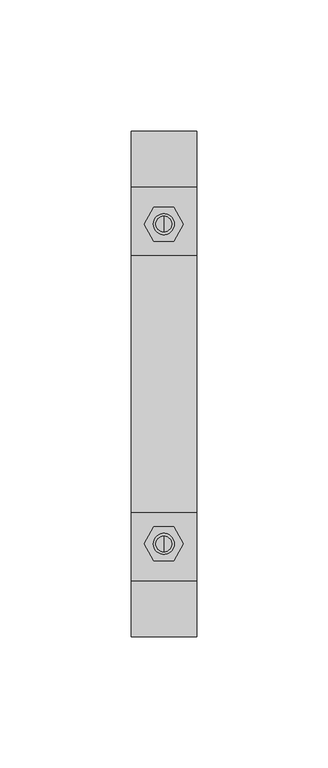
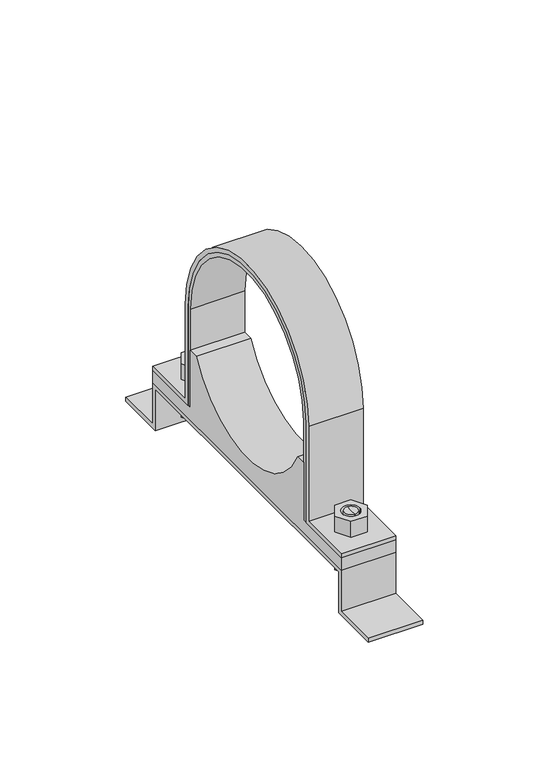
"""IFC4 building model written with IfcOpenShell, lengths in millimetres: valve geometry, Superfix DG3 Clamp : Superfix DG3 Clamp."""

from ifc_helpers import new_model, si_unit, point, frame, frame_2d, origin, place, context, project, spatial, polyline, circle_curve, trimmed, segment, composite_curve, outline, extrude, source, transform, mapped, element, save
from ifc_brep_helpers import plane_surface, cylinder_surface, advanced_brep


def valve_0220e836(model_context):
    return source(origin(), model_context, "Body", "SolidModel", [
        advanced_brep(
        [(0.0, 64.0, 7.0), (0.0, 58.0, 7.0), (0.0, 58.0, 20.0), (0.0, 64.0, 20.0), (0.0, 61.0, 7.0)],
        [
            (0, 1, circle_curve(frame((0.0, 61.0, 7.0), z_axis=(0.0, 0.0, 1.0), x_axis=(0.0, 1.0, 0.0)), 3.0)),
            (1, 2),
            (2, 3, circle_curve(frame((0.0, 61.0, 20.0), z_axis=(0.0, 0.0, -1.0), x_axis=(0.0, 1.0, 0.0)), 3.0)),
            (3, 0),
            (1, 0, circle_curve(frame((0.0, 61.0, 7.0), z_axis=(0.0, 0.0, 1.0), x_axis=(0.0, 1.0, 0.0)), 3.0)),
            (3, 2, circle_curve(frame((0.0, 61.0, 20.0), z_axis=(0.0, 0.0, -1.0), x_axis=(0.0, 1.0, 0.0)), 3.0)),
            (0, 4),
            (4, 1),
        ],
        [
            cylinder_surface(frame((0.0, 61.0, 74.2806094), z_axis=(0.0, 0.0, 1.0), x_axis=(0.0, 1.0, 0.0)), 3.0),
            plane_surface(frame((0.0, 61.0, 7.0), z_axis=(0.0, 0.0, -1.0), x_axis=(0.0, 1.0, 0.0))),
            plane_surface(frame((13.75, -75.0, 20.0), z_axis=(0.0, 0.0, 1.0), x_axis=(-1.0, 0.0, 0.0))),
        ],
        [
            (0, [[1, 2, 3, 4]]),
            (0, [[5, -4, 6, -2]]),
            (1, [[-1, 7, 8]]),
            (1, [[-5, -8, -7]]),
            (2, [[-3, -6]]),
        ],
    ),
        advanced_brep(
        [(0.0, 58.0, 38.0), (0.0, 64.0, 38.0), (0.0, 64.0, 28.0), (0.0, 58.0, 28.0), (0.0, 61.0, 38.0)],
        [
            (0, 1, circle_curve(frame((0.0, 61.0, 38.0), z_axis=(0.0, 0.0, -1.0), x_axis=(0.0, 1.0, 0.0)), 3.0)),
            (1, 2),
            (2, 3, circle_curve(frame((0.0, 61.0, 28.0), z_axis=(0.0, 0.0, 1.0), x_axis=(0.0, 1.0, 0.0)), 3.0)),
            (3, 0),
            (1, 0, circle_curve(frame((0.0, 61.0, 38.0), z_axis=(0.0, 0.0, -1.0), x_axis=(0.0, 1.0, 0.0)), 3.0)),
            (3, 2, circle_curve(frame((0.0, 61.0, 28.0), z_axis=(0.0, 0.0, 1.0), x_axis=(0.0, 1.0, 0.0)), 3.0)),
            (0, 4),
            (4, 1),
        ],
        [
            cylinder_surface(frame((0.0, 61.0, 74.2806094), z_axis=(0.0, 0.0, 1.0), x_axis=(0.0, 1.0, 0.0)), 3.0),
            plane_surface(frame((0.0, 61.0, 38.0), z_axis=(0.0, 0.0, 1.0), x_axis=(0.0, 1.0, 0.0))),
            plane_surface(frame((13.75, 75.0, 28.0), z_axis=(0.0, 0.0, -1.0), x_axis=(-1.0, 0.0, 0.0))),
        ],
        [
            (0, [[1, 2, 3, 4]]),
            (0, [[5, -4, 6, -2]]),
            (1, [[-1, 7, 8]]),
            (1, [[-5, -8, -7]]),
            (2, [[-3, -6]]),
        ],
    ),
        advanced_brep(
        [(0.0, -64.0, 38.0), (0.0, -58.0, 38.0), (0.0, -58.0, 28.0), (0.0, -64.0, 28.0), (0.0, -61.0, 38.0)],
        [
            (0, 1, circle_curve(frame((0.0, -61.0, 38.0), z_axis=(0.0, 0.0, -1.0), x_axis=(0.0, -1.0, 0.0)), 3.0)),
            (1, 2),
            (2, 3, circle_curve(frame((0.0, -61.0, 28.0), z_axis=(0.0, 0.0, 1.0), x_axis=(0.0, -1.0, 0.0)), 3.0)),
            (3, 0),
            (1, 0, circle_curve(frame((0.0, -61.0, 38.0), z_axis=(0.0, 0.0, -1.0), x_axis=(0.0, -1.0, 0.0)), 3.0)),
            (3, 2, circle_curve(frame((0.0, -61.0, 28.0), z_axis=(0.0, 0.0, 1.0), x_axis=(0.0, -1.0, 0.0)), 3.0)),
            (0, 4),
            (4, 1),
        ],
        [
            cylinder_surface(frame((0.0, -61.0, 74.2806094), z_axis=(0.0, 0.0, -1.0), x_axis=(0.0, -1.0, 0.0)), 3.0),
            plane_surface(frame((0.0, -61.0, 38.0), z_axis=(0.0, 0.0, 1.0), x_axis=(0.0, -1.0, 0.0))),
            plane_surface(frame((13.75, 75.0, 28.0), z_axis=(0.0, 0.0, -1.0), x_axis=(-1.0, 0.0, 0.0))),
        ],
        [
            (0, [[1, 2, 3, 4]]),
            (0, [[5, -4, 6, -2]]),
            (1, [[-1, 7, 8]]),
            (1, [[-5, -8, -7]]),
            (2, [[-3, -6]]),
        ],
    ),
        advanced_brep(
        [(0.0, -58.0, 7.0), (0.0, -64.0, 7.0), (0.0, -64.0, 20.0), (0.0, -58.0, 20.0), (0.0, -61.0, 7.0)],
        [
            (0, 1, circle_curve(frame((0.0, -61.0, 7.0), z_axis=(0.0, 0.0, 1.0), x_axis=(0.0, -1.0, 0.0)), 3.0)),
            (1, 2),
            (2, 3, circle_curve(frame((0.0, -61.0, 20.0), z_axis=(0.0, 0.0, -1.0), x_axis=(0.0, -1.0, 0.0)), 3.0)),
            (3, 0),
            (1, 0, circle_curve(frame((0.0, -61.0, 7.0), z_axis=(0.0, 0.0, 1.0), x_axis=(0.0, -1.0, 0.0)), 3.0)),
            (3, 2, circle_curve(frame((0.0, -61.0, 20.0), z_axis=(0.0, 0.0, -1.0), x_axis=(0.0, -1.0, 0.0)), 3.0)),
            (0, 4),
            (4, 1),
        ],
        [
            cylinder_surface(frame((0.0, -61.0, 74.2806094), z_axis=(0.0, 0.0, -1.0), x_axis=(0.0, -1.0, 0.0)), 3.0),
            plane_surface(frame((0.0, -61.0, 7.0), z_axis=(0.0, 0.0, -1.0), x_axis=(0.0, -1.0, 0.0))),
            plane_surface(frame((13.75, -75.0, 20.0), z_axis=(0.0, 0.0, 1.0), x_axis=(-1.0, 0.0, 0.0))),
        ],
        [
            (0, [[1, 2, 3, 4]]),
            (0, [[5, -4, 6, -2]]),
            (1, [[-1, 7, 8]]),
            (1, [[-5, -8, -7]]),
            (2, [[-3, -6]]),
        ],
    ),
        extrude(outline(composite_curve([segment(trimmed(circle_curve(frame_2d((0.0, 76.0)), 47.0), [point((47.0, 76.0))], [point((-47.0, 76.0))], True, "CARTESIAN"), True, "CONTINUOUS"), segment(polyline([(-47.0, 76.0), (-47.0, 28.0), (-75.0, 28.0), (-75.0, 30.0), (-49.0, 30.0), (-49.0, 76.0)]), True, "CONTINUOUS"), segment(trimmed(circle_curve(frame_2d((0.0, 76.0)), 49.0), [point((-49.0, 76.0))], [point((49.0, 76.0))], False, "CARTESIAN"), True, "CONTINUOUS"), segment(polyline([(49.0, 76.0), (49.0, 30.0), (75.0, 30.0), (75.0, 28.0), (47.0, 28.0), (47.0, 76.0)]), True, "CONTINUOUS")], self_intersect=False)), frame((-12.5, 0.0, 0.0), z_axis=(1.0, 0.0, 0.0), x_axis=(0.0, 1.0, 0.0)), (0.0, 0.0, 1.0), 25.0),
        extrude(outline(polyline([(7.5055535, -61.0), (3.7527767, -67.5), (-3.7527767, -67.5), (-7.5055535, -61.0), (-3.7527767, -54.5), (3.7527767, -54.5), (7.5055535, -61.0)]), holes=[composite_curve([segment(trimmed(circle_curve(frame_2d((0.0, -61.0)), 4.0), [point((4.0, -61.0))], [point((-4.0, -61.0))], True, "CARTESIAN"), True, "CONTINUOUS"), segment(trimmed(circle_curve(frame_2d((0.0, -61.0)), 4.0), [point((-4.0, -61.0))], [point((4.0, -61.0))], True, "CARTESIAN"), True, "CONTINUOUS")], self_intersect=False)]), frame((0.0, 0.0, 30.0), z_axis=(0.0, 0.0, 1.0), x_axis=(1.0, 0.0, 0.0)), (0.0, 0.0, 1.0), 8.0),
        extrude(outline(polyline([(7.5055535, 61.0), (3.7527767, 54.5), (-3.7527767, 54.5), (-7.5055535, 61.0), (-3.7527767, 67.5), (3.7527767, 67.5), (7.5055535, 61.0)]), holes=[composite_curve([segment(trimmed(circle_curve(frame_2d((0.0, 61.0)), 4.0), [point((4.0, 61.0))], [point((-4.0, 61.0))], True, "CARTESIAN"), True, "CONTINUOUS"), segment(trimmed(circle_curve(frame_2d((0.0, 61.0)), 4.0), [point((-4.0, 61.0))], [point((4.0, 61.0))], True, "CARTESIAN"), True, "CONTINUOUS")], self_intersect=False)]), frame((0.0, 0.0, 30.0), z_axis=(0.0, 0.0, 1.0), x_axis=(1.0, 0.0, 0.0)), (0.0, 0.0, 1.0), 8.0),
        extrude(outline(polyline([(7.5055535, -61.0), (3.7527767, -67.5), (-3.7527767, -67.5), (-7.5055535, -61.0), (-3.7527767, -54.5), (3.7527767, -54.5), (7.5055535, -61.0)]), holes=[composite_curve([segment(trimmed(circle_curve(frame_2d((0.0, -61.0)), 4.0), [point((4.0, -61.0))], [point((-4.0, -61.0))], True, "CARTESIAN"), True, "CONTINUOUS"), segment(trimmed(circle_curve(frame_2d((0.0, -61.0)), 4.0), [point((-4.0, -61.0))], [point((4.0, -61.0))], True, "CARTESIAN"), True, "CONTINUOUS")], self_intersect=False)]), frame((0.0, 0.0, 12.0), z_axis=(0.0, 0.0, 1.0), x_axis=(1.0, 0.0, 0.0)), (0.0, 0.0, 1.0), 8.0),
        extrude(outline(polyline([(7.5055535, 61.0), (3.7527767, 54.5), (-3.7527767, 54.5), (-7.5055535, 61.0), (-3.7527767, 67.5), (3.7527767, 67.5), (7.5055535, 61.0)]), holes=[composite_curve([segment(trimmed(circle_curve(frame_2d((0.0, 61.0)), 4.0), [point((4.0, 61.0))], [point((-4.0, 61.0))], True, "CARTESIAN"), True, "CONTINUOUS"), segment(trimmed(circle_curve(frame_2d((0.0, 61.0)), 4.0), [point((-4.0, 61.0))], [point((4.0, 61.0))], True, "CARTESIAN"), True, "CONTINUOUS")], self_intersect=False)]), frame((0.0, 0.0, 12.0), z_axis=(0.0, 0.0, 1.0), x_axis=(1.0, 0.0, 0.0)), (0.0, 0.0, 1.0), 8.0),
        extrude(outline(composite_curve([segment(polyline([(-75.0, 22.0), (-75.0, 28.0), (-45.0, 28.0), (-45.0, 56.0), (-40.3112887, 56.0)]), True, "CONTINUOUS"), segment(trimmed(circle_curve(frame_2d((0.0, 76.0)), 45.0), [point((-40.3112887, 56.0))], [point((40.3112887, 56.0))], True, "CARTESIAN"), True, "CONTINUOUS"), segment(polyline([(40.3112887, 56.0), (45.0, 56.0), (45.0, 28.0), (75.0, 28.0), (75.0, 22.0), (-75.0, 22.0)]), True, "CONTINUOUS")], self_intersect=False)), frame((-12.5, 0.0, 0.0), z_axis=(1.0, 0.0, 0.0), x_axis=(0.0, 1.0, 0.0)), (0.0, 0.0, 1.0), 25.0),
        extrude(outline(polyline([(-96.5, 2.0), (-75.0, 2.0), (-75.0, 22.0), (0.0, 22.0), (75.0, 22.0), (75.0, 2.0), (96.5, 2.0), (96.5, 0.0), (73.0, 0.0), (73.0, 20.0), (0.0, 20.0), (-73.0, 20.0), (-73.0, 0.0), (-96.5, 0.0), (-96.5, 2.0)])), frame((-12.5, 0.0, 0.0), z_axis=(1.0, 0.0, 0.0), x_axis=(0.0, 1.0, 0.0)), (0.0, 0.0, 1.0), 25.0),
        extrude(outline(composite_curve([segment(trimmed(circle_curve(frame_2d((0.0, 76.0)), 45.0), [point((45.0, 76.0))], [point((-45.0, 76.0))], True, "CARTESIAN"), True, "CONTINUOUS"), segment(polyline([(-45.0, 76.0), (-45.0, 28.0), (-47.0, 28.0), (-47.0, 76.0)]), True, "CONTINUOUS"), segment(trimmed(circle_curve(frame_2d((0.0, 76.0)), 47.0), [point((-47.0, 76.0))], [point((47.0, 76.0))], False, "CARTESIAN"), True, "CONTINUOUS"), segment(polyline([(47.0, 76.0), (47.0, 28.0), (45.0, 28.0), (45.0, 76.0)]), True, "CONTINUOUS")], self_intersect=False)), frame((-12.5, 0.0, 0.0), z_axis=(1.0, 0.0, 0.0), x_axis=(0.0, 1.0, 0.0)), (0.0, 0.0, 1.0), 25.0),
    ])


if __name__ == "__main__":
    model = new_model("IFC4")
    model_context = context("Model", 3, world=origin())
    ifc_project = project(units=[si_unit("LENGTHUNIT", "METRE", prefix="MILLI")], contexts=[model_context])
    site = spatial("IfcSite", under=ifc_project)
    building = spatial("IfcBuilding", under=site)
    placement = place(None, origin())
    valve_shape = valve_0220e836(model_context)
    element("IfcValve", 1, ObjectType="Superfix DG3 Clamp : Superfix DG3 Clamp", at=placement, inside=building, context=model_context, shape_type="MappedRepresentation", body=[
        mapped(valve_shape, transform((0.0, 0.0, 0.0), x_axis=(1.0, 0.0, 0.0), y_axis=(0.0, 1.0, 0.0), z_axis=(0.0, 0.0, 1.0))),
    ])
    save(model, "model.ifc")
